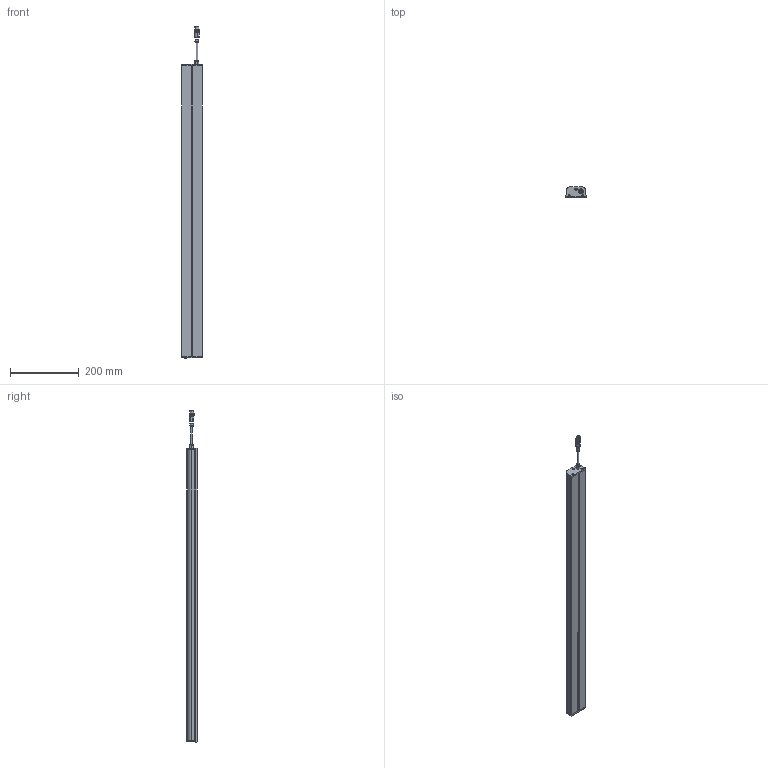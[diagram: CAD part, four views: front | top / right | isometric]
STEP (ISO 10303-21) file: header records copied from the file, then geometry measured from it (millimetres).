
FILE_DESCRIPTION(/* description */ (''),/* implementation_level */ '2;1');
FILE_NAME(/* name */ 'G:\Daten\Leuchten\10000 - LED DL\03 - CAD\Step-Dateien_Gesamt_Website\sangel-led-dl-840.stp',/* time_stamp */ '2023-07-04T15:25:41+02:00',/* author */ ('gzahn'),/* organization */ (''),/* preprocessor_version */ 'ST-DEVELOPER v19',/* originating_system */ 'Autodesk Inventor 2023',/* authorisation */ '');
FILE_SCHEMA (('AUTOMOTIVE_DESIGN { 1 0 10303 214 3 1 1 }'));
Length unit declared in the file: millimetre
Products named in the file (1): 1-000000-07439 - LED DL 840 PCd-M12-57
Bounding box: 60 x 30 x 966.29 mm (x, y, z)
Volume: 1296449.8 mm3; surface area: 179461.5 mm2
Topology: 1 solids, 1 shells, 592 faces, 1591 edges, 1033 vertices
Faces by surface type: plane 272, cylinder 194, cone 76, bspline 33, torus 13, sphere 4
Full cylindrical faces by diameter (mm): 1 x5, 2.9 x6, 3 x6, 4.7 x1, 5.5 x6, 8.3 x1, 8.8 x1, 9.023 x1, 9.6 x1, 10.392 x1, 10.5 x2, 13 x1
Entity records: 20990 total; most frequent: CARTESIAN_POINT 6199, ORIENTED_EDGE 3162, DIRECTION 2671, EDGE_CURVE 1581, VERTEX_POINT 1033, AXIS2_PLACEMENT_3D 965, LINE 741, VECTOR 741
